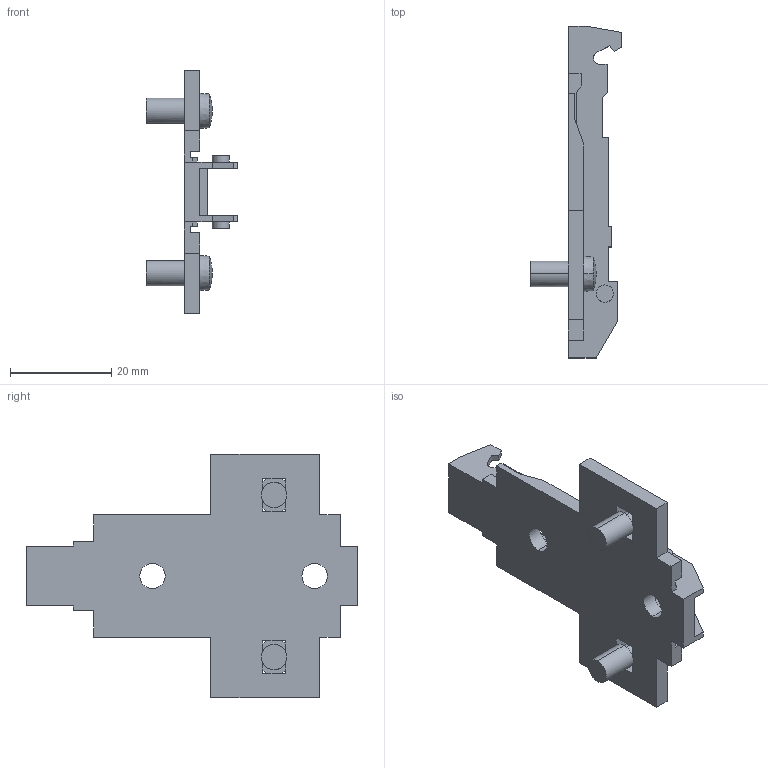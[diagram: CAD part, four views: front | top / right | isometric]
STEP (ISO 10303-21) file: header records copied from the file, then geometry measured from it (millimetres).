
FILE_DESCRIPTION (( 'STEP AP214' ), '1' );
FILE_NAME ('1D_Kreuzmontageplatte 28_32_5mm_Dübel_kurz_0.step', '2010-11-18T10:20:18', ( 'grass' ), ( '' ), 'SwSTEP 2.0', 'SolidWorks 2010', '' );
FILE_SCHEMA (( 'AUTOMOTIVE_DESIGN' ));
Length unit declared in the file: millimetre
Products named in the file (1): 1D_Kreuzmontageplatte 28_32_5mm_Dübel_kurz_0
Bounding box: 18 x 65.5 x 48 mm (x, y, z)
Volume: 6473.8 mm3; surface area: 6657.6 mm2
Topology: 1 solids, 1 shells, 126 faces, 388 edges, 250 vertices
Faces by surface type: plane 96, cylinder 22, sphere 4, cone 4
Entity records: 4374 total; most frequent: ORIENTED_EDGE 776, CARTESIAN_POINT 765, DIRECTION 722, EDGE_CURVE 388, VECTOR 308, LINE 308, VERTEX_POINT 250, AXIS2_PLACEMENT_3D 207
